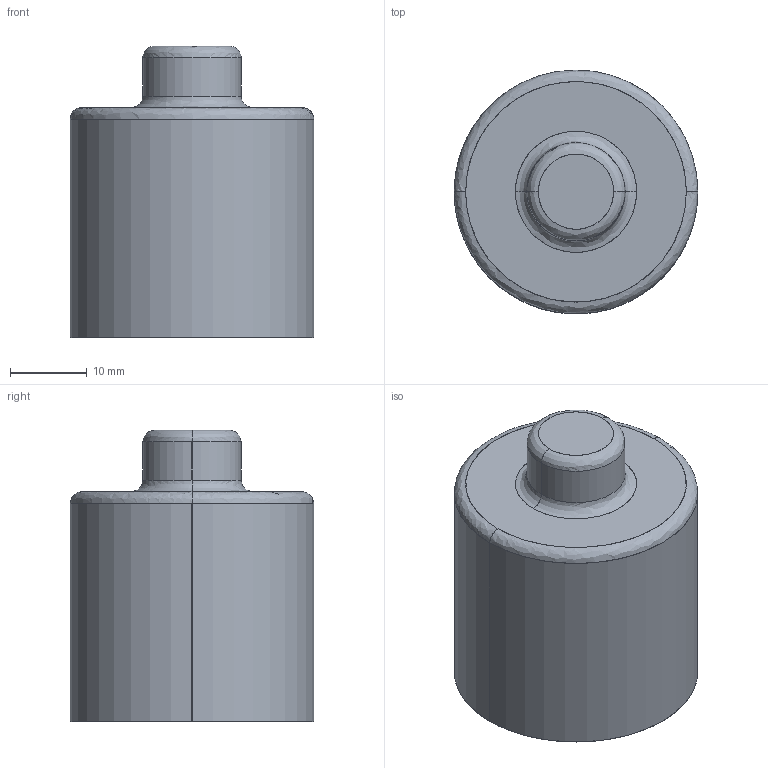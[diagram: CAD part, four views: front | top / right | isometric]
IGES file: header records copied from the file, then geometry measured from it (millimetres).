
Start section: SolidWorks IGES file using analytic representation for surfaces
Global section: file name: M:\solidworks files\firearms cad files\files to send to FUbob @cncguns\IGS files for FF site\Spring Cap.IGS; native system: SolidWorks 2008; preprocessor: SolidWorks 2008; author: owner; date: 100407.234348; units: millimetre
Bounding box: 31.75 x 31.75 x 38 mm (x, y, z)
Surface area: 7701.2 mm2 (no closed solid volume)
Topology: 0 solids, 0 shells, 25 faces, 444 edges, 444 vertices
Faces by surface type: bspline 17, revolution 8
